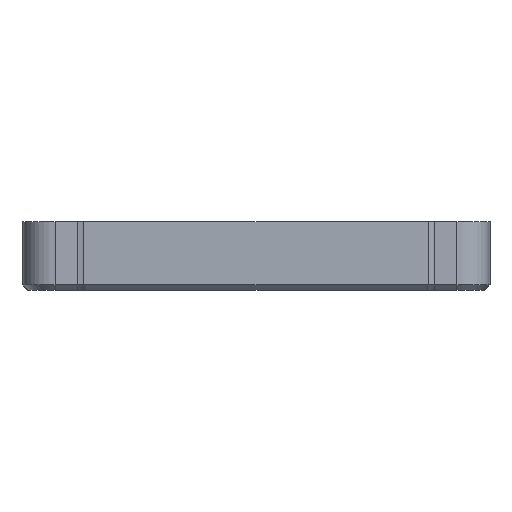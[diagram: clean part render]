
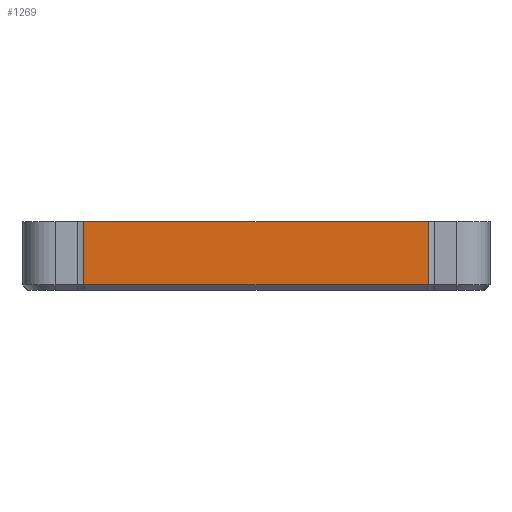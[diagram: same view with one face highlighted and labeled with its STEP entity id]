
A CAD part, front view. The second image highlights one B-rep face of the part: STEP entity #1269.
In plain terms, the highlighted planar face has unit normal (0, -1, 0).
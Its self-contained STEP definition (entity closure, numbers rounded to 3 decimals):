
#6 = VERTEX_POINT ( 'NONE', #569 ) ;
#11 = EDGE_LOOP ( 'NONE', ( #189, #1225, #1631, #1032 ) ) ;
#55 = FACE_OUTER_BOUND ( 'NONE', #11, .T. ) ;
#80 = CARTESIAN_POINT ( 'NONE',  ( -42.502, -110., 32. ) ) ;
#125 = DIRECTION ( 'NONE',  ( 0., 0., -1. ) ) ;
#141 = CARTESIAN_POINT ( 'NONE',  ( -62.502, -110., 25. ) ) ;
#189 = ORIENTED_EDGE ( 'NONE', *, *, #945, .T. ) ;
#191 = DIRECTION ( 'NONE',  ( 1., 0., 0. ) ) ;
#221 = DIRECTION ( 'NONE',  ( 0., 1., 0. ) ) ;
#239 = DIRECTION ( 'NONE',  ( 1., 0., 0. ) ) ;
#247 = LINE ( 'NONE', #1330, #881 ) ;
#248 = CARTESIAN_POINT ( 'NONE',  ( -62.502, -110., 2. ) ) ;
#315 = LINE ( 'NONE', #1392, #1324 ) ;
#371 = DIRECTION ( 'NONE',  ( 0., 0., -1. ) ) ;
#457 = VECTOR ( 'NONE', #239, 1000. ) ;
#487 = VERTEX_POINT ( 'NONE', #248 ) ;
#569 = CARTESIAN_POINT ( 'NONE',  ( 62.502, -110., 2. ) ) ;
#814 = LINE ( 'NONE', #1459, #854 ) ;
#846 = AXIS2_PLACEMENT_3D ( 'NONE', #80, #221, #1157 ) ;
#854 = VECTOR ( 'NONE', #371, 1000. ) ;
#881 = VECTOR ( 'NONE', #125, 1000. ) ;
#913 = EDGE_CURVE ( 'NONE', #986, #6, #814, .T. ) ;
#945 = EDGE_CURVE ( 'NONE', #1070, #487, #247, .T. ) ;
#986 = VERTEX_POINT ( 'NONE', #1076 ) ;
#1032 = ORIENTED_EDGE ( 'NONE', *, *, #1315, .F. ) ;
#1070 = VERTEX_POINT ( 'NONE', #141 ) ;
#1076 = CARTESIAN_POINT ( 'NONE',  ( 62.502, -110., 25. ) ) ;
#1157 = DIRECTION ( 'NONE',  ( 1., 0., 0. ) ) ;
#1191 = LINE ( 'NONE', #1441, #457 ) ;
#1225 = ORIENTED_EDGE ( 'NONE', *, *, #1665, .T. ) ;
#1269 = ADVANCED_FACE ( 'NONE', ( #55 ), #1287, .F. ) ;
#1287 = PLANE ( 'NONE',  #846 ) ;
#1315 = EDGE_CURVE ( 'NONE', #1070, #986, #1191, .T. ) ;
#1324 = VECTOR ( 'NONE', #191, 1000. ) ;
#1330 = CARTESIAN_POINT ( 'NONE',  ( -62.502, -110., 32. ) ) ;
#1392 = CARTESIAN_POINT ( 'NONE',  ( 62.502, -110., 2. ) ) ;
#1441 = CARTESIAN_POINT ( 'NONE',  ( -53., -110., 25. ) ) ;
#1459 = CARTESIAN_POINT ( 'NONE',  ( 62.502, -110., 32. ) ) ;
#1631 = ORIENTED_EDGE ( 'NONE', *, *, #913, .F. ) ;
#1665 = EDGE_CURVE ( 'NONE', #487, #6, #315, .T. ) ;
